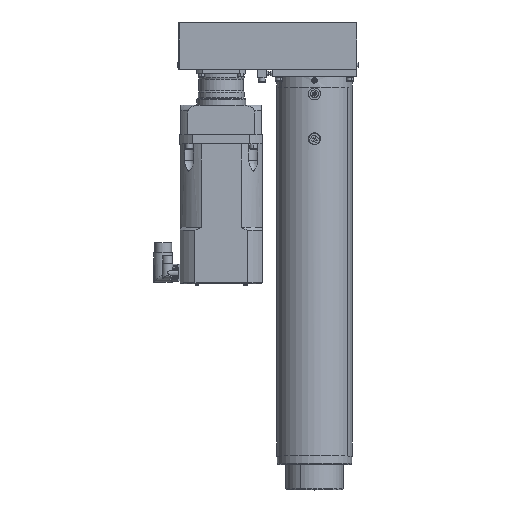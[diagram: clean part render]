
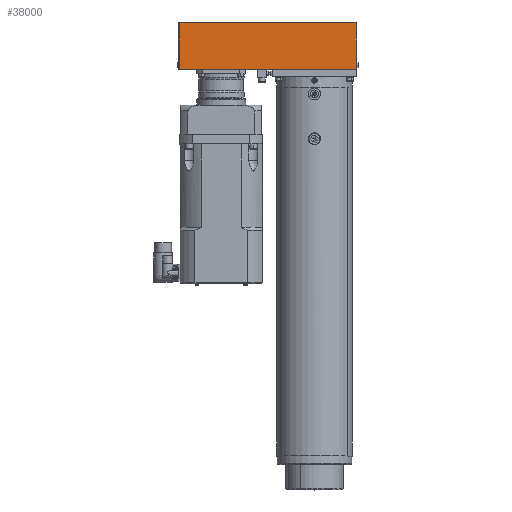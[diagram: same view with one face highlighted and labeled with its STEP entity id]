
A CAD part, top view. The second image highlights one B-rep face of the part: STEP entity #38000.
In plain terms, the highlighted planar face has unit normal (0, 0, 1).
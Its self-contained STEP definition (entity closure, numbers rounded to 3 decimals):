
#2142 = CARTESIAN_POINT ( 'NONE',  ( -418.5, 932., 199.5 ) ) ;
#2681 = EDGE_CURVE ( 'NONE', #33702, #16408, #16083, .T. ) ;
#4134 = LINE ( 'NONE', #39482, #34982 ) ;
#5538 = DIRECTION ( 'NONE',  ( -1., 0., 0. ) ) ;
#5717 = CARTESIAN_POINT ( 'NONE',  ( -418.5, 1042., 199.5 ) ) ;
#9240 = DIRECTION ( 'NONE',  ( 0., 0., -1. ) ) ;
#9977 = ORIENTED_EDGE ( 'NONE', *, *, #37500, .T. ) ;
#15837 = EDGE_CURVE ( 'NONE', #37439, #26308, #4134, .T. ) ;
#16083 = LINE ( 'NONE', #25635, #33588 ) ;
#16408 = VERTEX_POINT ( 'NONE', #28815 ) ;
#17171 = FACE_OUTER_BOUND ( 'NONE', #17448, .T. ) ;
#17448 = EDGE_LOOP ( 'NONE', ( #28514, #32169, #26873, #9977 ) ) ;
#17928 = CARTESIAN_POINT ( 'NONE',  ( -1., 1041.5, 199.5 ) ) ;
#18853 = EDGE_CURVE ( 'NONE', #16408, #37439, #33746, .T. ) ;
#18986 = CARTESIAN_POINT ( 'NONE',  ( -418., 1042., 199.5 ) ) ;
#19214 = DIRECTION ( 'NONE',  ( -1., 0., 0. ) ) ;
#20666 = CARTESIAN_POINT ( 'NONE',  ( -418.5, 1041.5, 199.5 ) ) ;
#22956 = VECTOR ( 'NONE', #27246, 1000. ) ;
#25635 = CARTESIAN_POINT ( 'NONE',  ( -418., 932., 199.5 ) ) ;
#26063 = DIRECTION ( 'NONE',  ( 1., 0., 0. ) ) ;
#26308 = VERTEX_POINT ( 'NONE', #20666 ) ;
#26873 = ORIENTED_EDGE ( 'NONE', *, *, #15837, .T. ) ;
#26980 = CARTESIAN_POINT ( 'NONE',  ( -1., 1042., 199.5 ) ) ;
#27246 = DIRECTION ( 'NONE',  ( 0., 1., 0. ) ) ;
#28514 = ORIENTED_EDGE ( 'NONE', *, *, #2681, .T. ) ;
#28815 = CARTESIAN_POINT ( 'NONE',  ( -1., 932., 199.5 ) ) ;
#31808 = PLANE ( 'NONE',  #32709 ) ;
#32169 = ORIENTED_EDGE ( 'NONE', *, *, #18853, .T. ) ;
#32709 = AXIS2_PLACEMENT_3D ( 'NONE', #18986, #9240, #5538 ) ;
#33588 = VECTOR ( 'NONE', #26063, 1000. ) ;
#33702 = VERTEX_POINT ( 'NONE', #2142 ) ;
#33746 = LINE ( 'NONE', #26980, #22956 ) ;
#34982 = VECTOR ( 'NONE', #19214, 1000. ) ;
#35025 = DIRECTION ( 'NONE',  ( 0., -1., 0. ) ) ;
#36272 = LINE ( 'NONE', #5717, #37293 ) ;
#37293 = VECTOR ( 'NONE', #35025, 1000. ) ;
#37439 = VERTEX_POINT ( 'NONE', #17928 ) ;
#37500 = EDGE_CURVE ( 'NONE', #26308, #33702, #36272, .T. ) ;
#38000 = ADVANCED_FACE ( 'NONE', ( #17171 ), #31808, .F. ) ;
#39482 = CARTESIAN_POINT ( 'NONE',  ( -419.5, 1041.5, 199.5 ) ) ;
